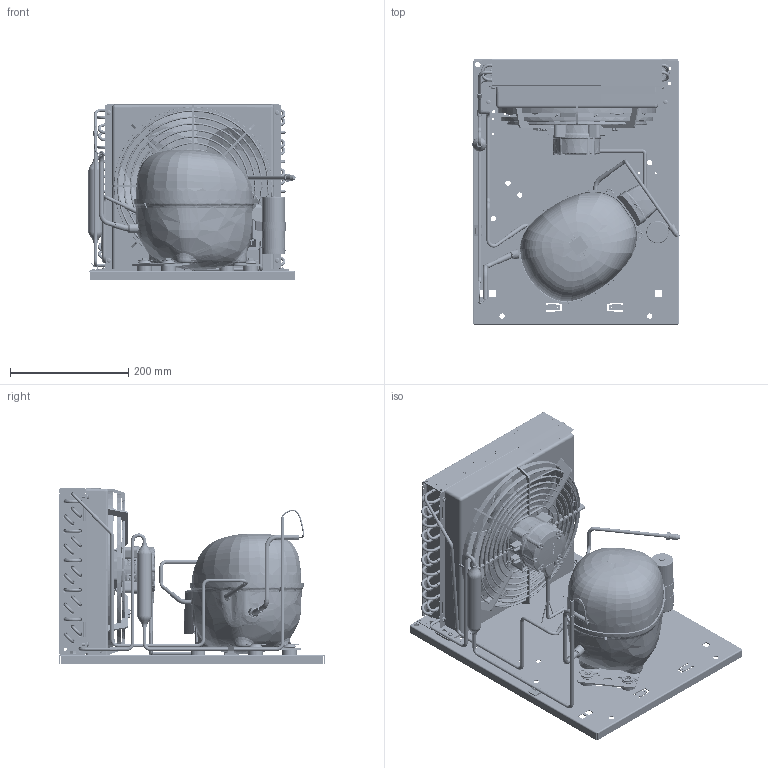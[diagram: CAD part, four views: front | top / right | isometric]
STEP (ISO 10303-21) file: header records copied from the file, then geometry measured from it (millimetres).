
FILE_DESCRIPTION(/* description */ ('Unknown'),/* implementation_level */ '2;1');
FILE_NAME(/* name */ '2298-0069',/* time_stamp */ '2022-03-23T14:26:35+01:00',/* author */ ('Unknown'),/* organization */ ('Unknown'),/* preprocessor_version */ 'ST-DEVELOPER v16.7',/* originating_system */ 'Solid Edge',/* authorisation */ 'Unknown');
FILE_SCHEMA (('AUTOMOTIVE_DESIGN {1 0 10303 214 3 1 1}'));
Products named in the file (44): 2298-0069; 92505122_oa_0; 99000082_secop; 1130270FI0; rl5010606; rl5010607; r59a00320; RL5019401; 2905052522; 2905051820; rn5003508; r57a00320; RL5025004; 84a4.2x9.5xtbcf01; 84DM6X5.2XXESRF00; cg254n; 84fm6x8xxxxtesf00; 62010150; 118-3661; 84RM10X21XXPIAF00; 118-7353; 105H6880; 680065982; GFN30_62-62; 55300397; 103N2010; 6803-1592; 99540010; 6803-1603; 6803-1604; 6804-0637; 2992137_oa_1; A254-28; 9221-0002; 84dm4x3.6xxesrf00; 99500100; 2298-0069 CAVO_VENTOLA; 99000321; 99000324; 99000326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
Assembly tree (90 placements, depth 3):
  2298-0069
    92505122_oa_0
    99000082_secop
    1130270FI0
      rl5010606
      rl5010607
      r59a00320  x5
      RL5019401
      2905052522  x5
      2905051820  x10
      rn5003508
      r57a00320  x11
      RL5025004  x2
    84a4.2x9.5xtbcf01  x6
    84DM6X5.2XXESRF00  x2
    cg254n
    84fm6x8xxxxtesf00  x2
    62010150
    118-3661  x4
    84RM10X21XXPIAF00  x4
    118-7353  x4
    105H6880
    680065982
    GFN30_62-62
    55300397
    103N2010
    6803-1592
    99540010
    6803-1603
    6803-1604
    6804-0637
    2992137_oa_1
    A254-28
    9221-0002
    84dm4x3.6xxesrf00  x4
    99500100
    2298-0069 CAVO_VENTOLA
    99000321
    99000324
    99000326
    99000327
    99000082_SECOP_F-GAS
    99000205
    99100226
Bounding box: 351.01 x 450 x 297.36 mm (x, y, z)
Volume: 3646617 mm3; surface area: 2067887.2 mm2
Topology: 92 solids, 96 shells, 12348 faces, 32442 edges, 20819 vertices
Faces by surface type: plane 5806, cylinder 2347, bspline 2156, torus 1296, cone 650, sphere 93
Full cylindrical faces by diameter (mm): 1.2 x4, 1.3 x2, 1.5 x2, 1.8 x2, 1.869 x1, 1.945 x3, 1.951 x1, 2 x20, 2.2 x8, 2.27 x3, 2.277 x3, 2.45 x6, 3.14 x6, 3.2 x1, 3.242 x4, 3.375 x1, 3.5 x23, 3.962 x1, 4 x39, 4.064 x1, 4.1 x1, 4.2 x30, 4.205 x11, 4.5 x41, 5 x75, 5.196 x1, 5.2 x2, 5.4 x4, 5.48 x60, 5.5 x15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
Entity records: 607966 total; most frequent: CARTESIAN_POINT 288381, ORIENTED_EDGE 59196, DIRECTION 43888, EDGE_CURVE 29598, VERTEX_POINT 19568, AXIS2_PLACEMENT_3D 16420, EDGE_LOOP 14124, FACE_BOUND 14124
